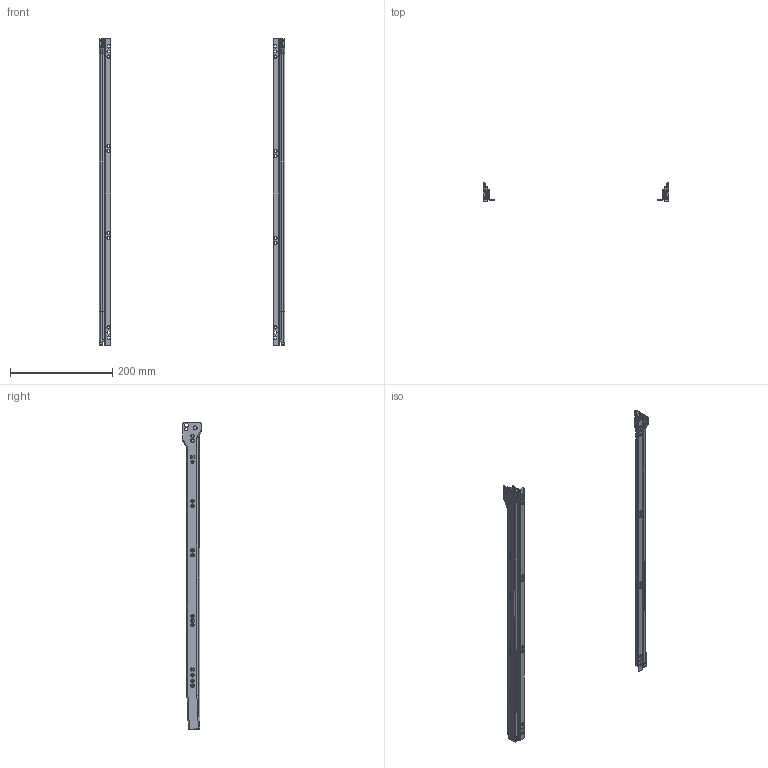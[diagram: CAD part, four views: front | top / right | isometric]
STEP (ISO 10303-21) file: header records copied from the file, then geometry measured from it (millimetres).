
FILE_DESCRIPTION(/* description */ (''),/* implementation_level */ '2;1');
FILE_NAME(/* name */ 'D:\$Workingspace\Designs\Katalog\Cadsoft\GTV Prowadnice\Prowadnice GTV_bryły 3D\PR-SP-600-10.stp',/* time_stamp */ '2016-11-22T15:27:51+01:00',/* author */ ('tomaszw'),/* organization */ (''),/* preprocessor_version */ 'ST-DEVELOPER v16.1',/* originating_system */ 'Autodesk Inventor 2016',/* authorisation */ '');
FILE_SCHEMA (('AUTOMOTIVE_DESIGN { 1 0 10303 214 3 1 1 }'));
Length unit declared in the file: millimetre
Products named in the file (5): PR-SP-600-10_CL; PR-SP-600-10_CR; PR-SP-600-10_DL; PR-SP-600-10_DR; PR-SP
Assembly tree (4 placements, depth 2):
  PR-SP
    PR-SP-600-10_CL
    PR-SP-600-10_CR
    PR-SP-600-10_DL
    PR-SP-600-10_DR
Bounding box: 364 x 36 x 600.01 mm (x, y, z)
Volume: 110911.7 mm3; surface area: 184321.5 mm2
Topology: 4 solids, 4 shells, 448 faces, 1120 edges, 692 vertices
Faces by surface type: cylinder 198, plane 158, cone 56, torus 28, sphere 8
Full cylindrical faces by diameter (mm): 5 x2, 5.4 x34, 5.5 x2, 6.4 x10, 7 x4, 8 x4, 18.5 x4
Entity records: 13625 total; most frequent: DIRECTION 2348, CARTESIAN_POINT 2335, ORIENTED_EDGE 1992, EDGE_CURVE 996, AXIS2_PLACEMENT_3D 909, EDGE_LOOP 700, VERTEX_POINT 684, LINE 530
